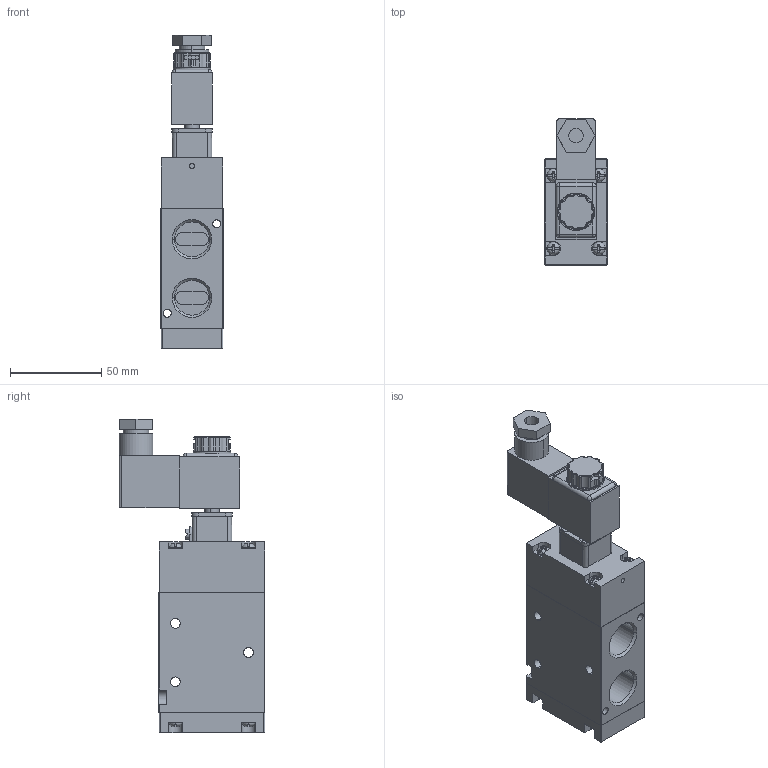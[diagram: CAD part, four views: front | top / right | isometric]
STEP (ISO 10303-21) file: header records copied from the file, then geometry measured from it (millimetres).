
FILE_DESCRIPTION (( 'STEP AP214' ), '1' );
FILE_NAME ('Janatics-Default.STEP', '2022-12-06T09:01:46', ( '' ), ( '' ), 'SwSTEP 2.0', 'SolidWorks 2022', '' );
FILE_SCHEMA (( 'AUTOMOTIVE_DESIGN' ));
Length unit declared in the file: millimetre
Products named in the file (18): Combination head screw_827531; End Cover Assembly 2; Coil Assembly; Janatics-Default; 723005- Housing; 880047 D - Coil assembly 24V DC; 723006- Manual Adjuster_trial; 414035-Housing_414035; 713008 A - Nut - M8X0.75; 880017 C - Connector screw; DS234SR60-Core tube; 414337-End cover; 073000-Core Tube Retainer; Combination head screw_827509; 880017 C - Connector; End Cover Assyembly 1; 827701 B - Slotted counter sunk head screw - M3X0.5 X 20; 534002-End Cover
Assembly tree (24 placements, depth 3):
  Janatics-Default
    414035-Housing_414035
    End Cover Assyembly 1
      414337-End cover
      Combination head screw_827531  x4
      723005- Housing
      073000-Core Tube Retainer
      DS234SR60-Core tube
      827701 B - Slotted counter sunk head screw - M3X0.5 X 20  x2
      723006- Manual Adjuster_trial
    End Cover Assembly 2
      534002-End Cover
      Combination head screw_827509  x4
    Coil Assembly
      880047 D - Coil assembly 24V DC
      880017 C - Connector
      880017 C - Connector screw
      713008 A - Nut - M8X0.75
Bounding box: 34 x 79.85 x 171.75 mm (x, y, z)
Volume: 234276.1 mm3; surface area: 65085 mm2
Topology: 21 solids, 21 shells, 817 faces, 2055 edges, 1289 vertices
Faces by surface type: plane 348, cylinder 270, torus 82, bspline 60, cone 57
Entity records: 22542 total; most frequent: CARTESIAN_POINT 5315, DIRECTION 3419, ORIENTED_EDGE 3298, EDGE_CURVE 1649, AXIS2_PLACEMENT_3D 1336, VERTEX_POINT 1040, EDGE_LOOP 757, VECTOR 747
